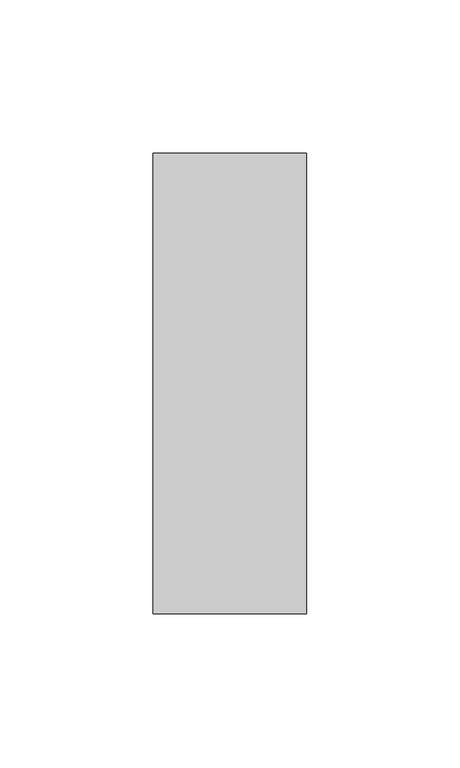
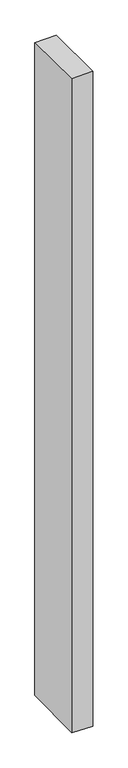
"""IFC4 building model written with IfcOpenShell, lengths in millimetres: member geometry, Прямоугольный импост : 50 x 150 мм."""

from ifc_helpers import new_model, si_unit, origin, place, context, project, spatial, faceted_brep, source, transform, mapped, element, save


def member_8adb6955(model_context):
    return source(origin(), model_context, "Body", "Brep", [
        faceted_brep([(-25.0, 75.0, -1.2932831), (25.0, 75.0, -0.0411102), (25.0, 75.0, -1625.5199776), (-25.0, 75.0, -1624.3232755), (-25.0, -75.0, 0.0411102), (-25.0, -75.0, -1626.8317304), (25.0, -75.0, 1.2932831), (25.0, -75.0, -1628.0284326)], [[[0, 1, 2, 3]], [[4, 0, 3, 5]], [[6, 4, 5, 7]], [[1, 6, 7, 2]], [[1, 0, 4, 6]], [[2, 7, 5, 3]]]),
    ])


if __name__ == "__main__":
    model = new_model("IFC4")
    model_context = context("Model", 3, world=origin())
    ifc_project = project(units=[si_unit("LENGTHUNIT", "METRE", prefix="MILLI")], contexts=[model_context])
    site = spatial("IfcSite", under=ifc_project)
    building = spatial("IfcBuilding", under=site)
    placement = place(None, origin())
    member_shape = member_8adb6955(model_context)
    element("IfcMember", 1, ObjectType="Прямоугольный импост : 50 x 150 мм", at=placement, inside=building, context=model_context, shape_type="MappedRepresentation", body=[
        mapped(member_shape, transform((0.0, 0.0, 0.0), x_axis=(1.0, 0.0, 0.0), y_axis=(0.0, 1.0, 0.0), z_axis=(0.0, 0.0, 1.0))),
    ])
    save(model, "model.ifc")
